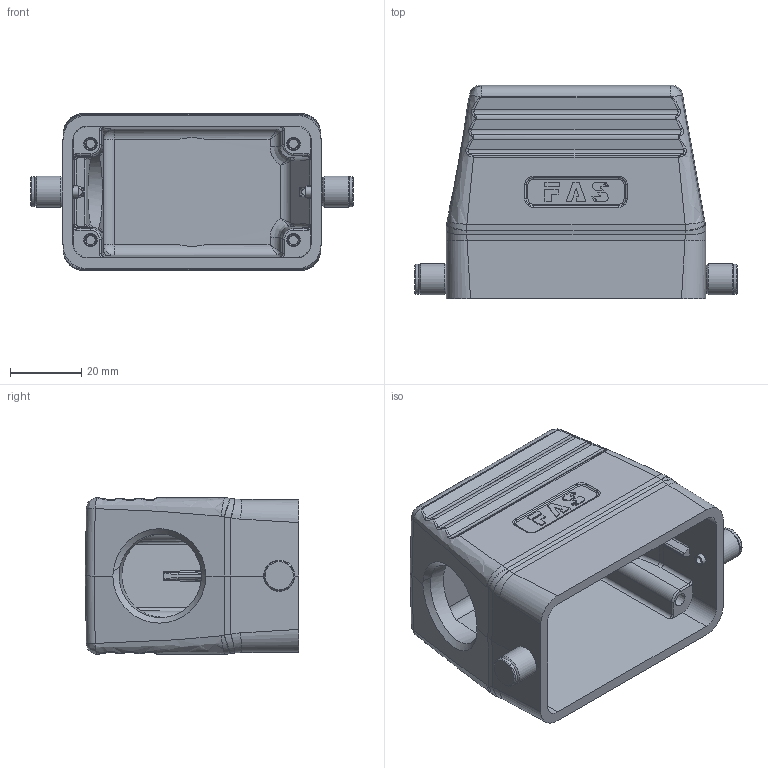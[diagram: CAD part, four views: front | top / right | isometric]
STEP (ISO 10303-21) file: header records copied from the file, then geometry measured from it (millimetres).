
FILE_DESCRIPTION (( 'STEP AP203' ), '1' );
FILE_NAME ('H10B-TS-RO-M25.STEP', '2023-06-07T08:12:05', ( '' ), ( '' ), 'SwSTEP 2.0', 'SolidWorks 2016', '' );
FILE_SCHEMA (( 'CONFIG_CONTROL_DESIGN' ));
Length unit declared in the file: millimetre
Products named in the file (1): H10B-TS-RO-M25
Bounding box: 90.57 x 60 x 44 mm (x, y, z)
Volume: 60466.9 mm3; surface area: 29267.2 mm2
Topology: 1 solids, 1 shells, 511 faces, 1257 edges, 780 vertices
Faces by surface type: plane 182, cylinder 149, bspline 132, cone 29, torus 15, sphere 4
Full cylindrical faces by diameter (mm): 2 x2, 3 x2, 4.8 x2, 5 x2, 8.5 x2, 8.8 x2, 23.5 x1
Entity records: 23613 total; most frequent: CARTESIAN_POINT 13092, ORIENTED_EDGE 2410, DIRECTION 1742, EDGE_CURVE 1205, VERTEX_POINT 762, AXIS2_PLACEMENT_3D 611, EDGE_LOOP 579, FACE_OUTER_BOUND 524
